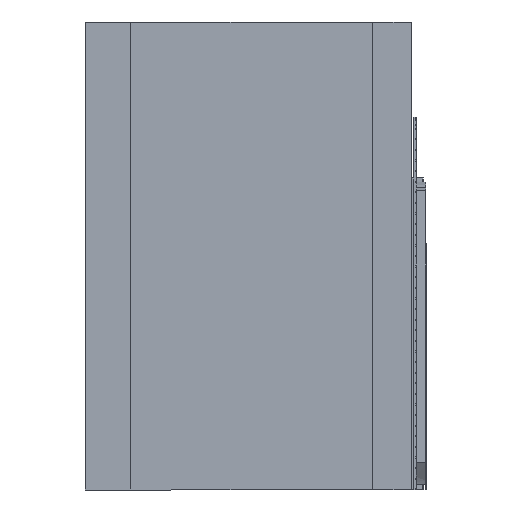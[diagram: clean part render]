
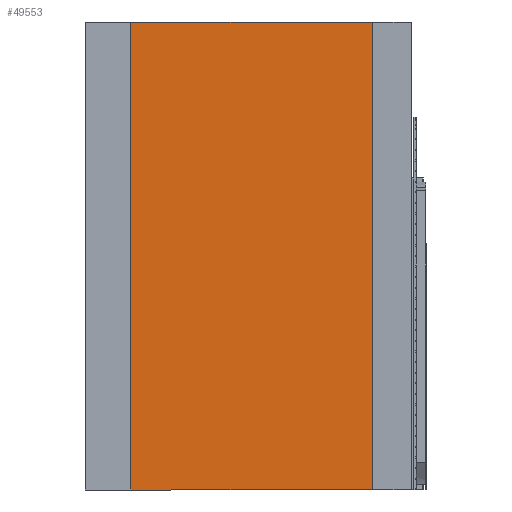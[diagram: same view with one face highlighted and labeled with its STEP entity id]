
A CAD part, left-side view. The second image highlights one B-rep face of the part: STEP entity #49553.
In plain terms, the highlighted planar face has unit normal (-1, 0, 0) as drawn and (0, 1, 0) by its records, which use the part's own axes.
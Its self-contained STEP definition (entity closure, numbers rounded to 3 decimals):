
#3143=PLANE('',#51993);
#5390=FACE_OUTER_BOUND('',#8619,.T.);
#8619=EDGE_LOOP('',(#45612,#45613,#45614,#45615));
#14857=LINE('',#76224,#21501);
#14859=LINE('',#76228,#21503);
#14860=LINE('',#76230,#21504);
#14861=LINE('',#76231,#21505);
#21501=VECTOR('',#62249,10.);
#21503=VECTOR('',#62253,10.);
#21504=VECTOR('',#62254,10.);
#21505=VECTOR('',#62255,10.);
#26309=VERTEX_POINT('',#76221);
#26310=VERTEX_POINT('',#76223);
#26311=VERTEX_POINT('',#76227);
#26312=VERTEX_POINT('',#76229);
#32835=EDGE_CURVE('',#26309,#26310,#14857,.T.);
#32837=EDGE_CURVE('',#26309,#26311,#14859,.T.);
#32838=EDGE_CURVE('',#26311,#26312,#14860,.T.);
#32839=EDGE_CURVE('',#26310,#26312,#14861,.T.);
#45612=ORIENTED_EDGE('',*,*,#32837,.T.);
#45613=ORIENTED_EDGE('',*,*,#32838,.T.);
#45614=ORIENTED_EDGE('',*,*,#32839,.F.);
#45615=ORIENTED_EDGE('',*,*,#32835,.F.);
#49553=ADVANCED_FACE('',(#5390),#3143,.T.);
#51993=AXIS2_PLACEMENT_3D('',#76226,#62251,#62252);
#62249=DIRECTION('',(0.,0.,1.));
#62251=DIRECTION('center_axis',(0.,1.,0.));
#62252=DIRECTION('ref_axis',(1.,0.,0.));
#62253=DIRECTION('',(-1.,0.,0.));
#62254=DIRECTION('',(0.,0.,1.));
#62255=DIRECTION('',(-1.,0.,0.));
#76221=CARTESIAN_POINT('',(-6.51,49.95,-150.));
#76223=CARTESIAN_POINT('',(-6.51,49.95,0.));
#76224=CARTESIAN_POINT('',(-6.51,49.95,0.));
#76226=CARTESIAN_POINT('Origin',(-96.01,49.95,0.));
#76227=CARTESIAN_POINT('',(-84.01,49.95,-150.));
#76228=CARTESIAN_POINT('',(-71.135,49.95,-150.));
#76229=CARTESIAN_POINT('',(-84.01,49.95,0.));
#76230=CARTESIAN_POINT('',(-84.01,49.95,0.));
#76231=CARTESIAN_POINT('',(5.99,49.95,0.));
